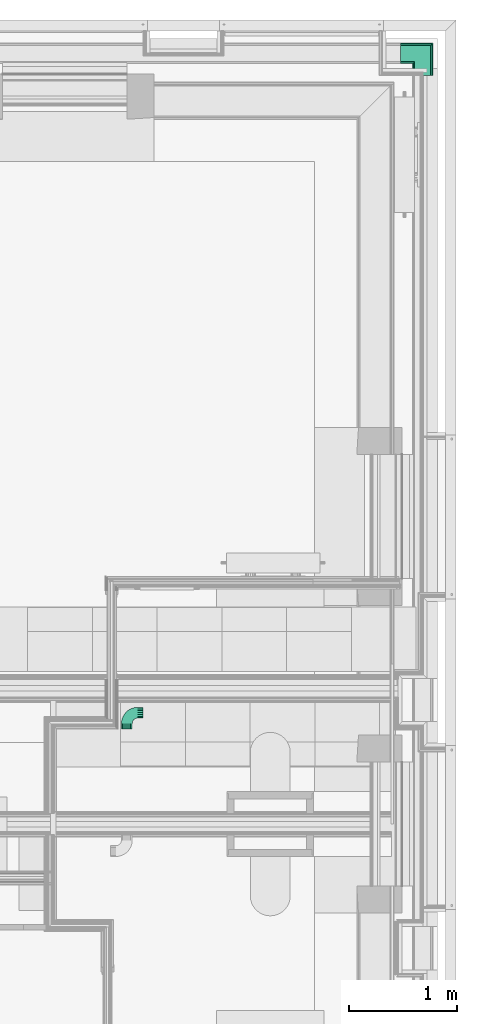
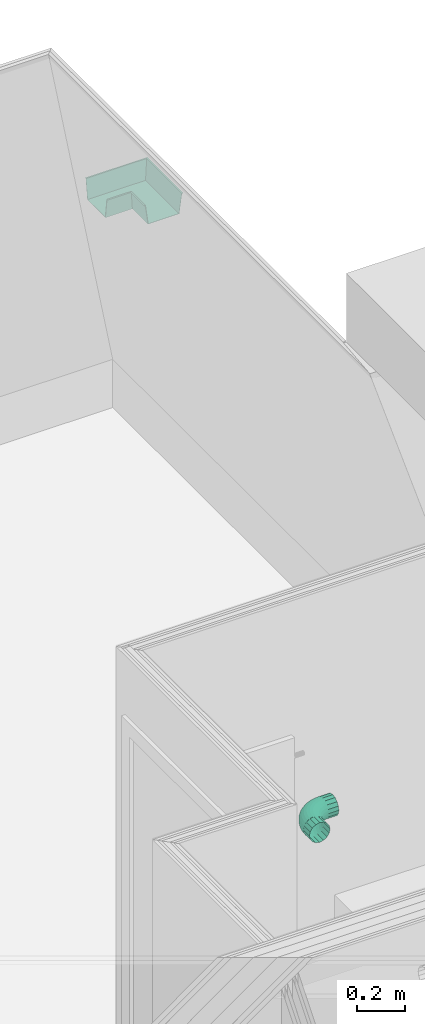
# One storey, part 165 of 169: 2 flow fittings.
"""IFC2X3 building model written with IfcOpenShell, lengths in metres."""

from ifc_helpers import new_model, entity, si_unit, converted_unit, derived_unit, money_unit, direction, frame, origin_with_axes, place, context, subcontext, project, spatial, open_shell, faceted_brep, surface_model, material, type_object, element, save


model = new_model("IFC2X3")

# Units and contexts
model_context = context("Model", 3, precision=1e-05, world=origin_with_axes(), true_north=direction((0.0, 1.0)))
body_context = subcontext(model_context, "Body", "Model", "MODEL_VIEW", scale=1.0)
ifc_project = project(units=[si_unit("LENGTHUNIT", "METRE"), si_unit("AREAUNIT", "SQUARE_METRE"), si_unit("VOLUMEUNIT", "CUBIC_METRE"), si_unit("ABSORBEDDOSEUNIT", "GRAY"), si_unit("AMOUNTOFSUBSTANCEUNIT", "MOLE"), si_unit("DOSEEQUIVALENTUNIT", "SIEVERT"), si_unit("ELECTRICCAPACITANCEUNIT", "FARAD"), si_unit("ELECTRICCHARGEUNIT", "COULOMB"), si_unit("ELECTRICCONDUCTANCEUNIT", "SIEMENS"), si_unit("ELECTRICCURRENTUNIT", "AMPERE"), si_unit("ELECTRICRESISTANCEUNIT", "OHM"), si_unit("ELECTRICVOLTAGEUNIT", "VOLT"), si_unit("ENERGYUNIT", "JOULE"), si_unit("FORCEUNIT", "NEWTON"), si_unit("FREQUENCYUNIT", "HERTZ"), si_unit("ILLUMINANCEUNIT", "LUX"), si_unit("INDUCTANCEUNIT", "HENRY"), si_unit("LUMINOUSFLUXUNIT", "LUMEN"), si_unit("LUMINOUSINTENSITYUNIT", "CANDELA"), si_unit("MAGNETICFLUXDENSITYUNIT", "TESLA"), si_unit("MAGNETICFLUXUNIT", "WEBER"), si_unit("MASSUNIT", "GRAM"), converted_unit("PLANEANGLEUNIT", "degree", entity("IfcReal", 0.0174532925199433), si_unit("PLANEANGLEUNIT", "RADIAN"), dimensions=[0, 0, 0, 0, 0, 0, 0]), si_unit("POWERUNIT", "WATT"), si_unit("PRESSUREUNIT", "PASCAL"), si_unit("RADIOACTIVITYUNIT", "BECQUEREL"), si_unit("SOLIDANGLEUNIT", "STERADIAN"), si_unit("THERMODYNAMICTEMPERATUREUNIT", "KELVIN"), si_unit("TIMEUNIT", "SECOND"), derived_unit("ACCELERATIONUNIT", [(si_unit("LENGTHUNIT", "METRE"), 1), (si_unit("TIMEUNIT", "SECOND"), -2)]), derived_unit("ANGULARVELOCITYUNIT", [(converted_unit("PLANEANGLEUNIT", "degree", entity("IfcReal", 0.0174532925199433), si_unit("PLANEANGLEUNIT", "RADIAN"), dimensions=[0, 0, 0, 0, 0, 0, 0]), 1), (si_unit("TIMEUNIT", "SECOND"), -1)]), derived_unit("CURVATUREUNIT", [(converted_unit("PLANEANGLEUNIT", "degree", entity("IfcReal", 0.0174532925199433), si_unit("PLANEANGLEUNIT", "RADIAN"), dimensions=[0, 0, 0, 0, 0, 0, 0]), 1), (si_unit("LENGTHUNIT", "METRE"), -1)]), derived_unit("DYNAMICVISCOSITYUNIT", [(si_unit("PRESSUREUNIT", "PASCAL"), 1), (si_unit("TIMEUNIT", "SECOND"), 1)]), derived_unit("HEATFLUXDENSITYUNIT", [(si_unit("POWERUNIT", "WATT"), 1), (si_unit("LENGTHUNIT", "METRE"), -2)]), derived_unit("HEATINGVALUEUNIT", [(si_unit("ENERGYUNIT", "JOULE"), 1), (si_unit("MASSUNIT", "GRAM"), -1)]), derived_unit("INTEGERCOUNTRATEUNIT", [(si_unit("TIMEUNIT", "SECOND"), -1)]), derived_unit("IONCONCENTRATIONUNIT", [(si_unit("MASSUNIT", "GRAM"), 1), (si_unit("VOLUMEUNIT", "CUBIC_METRE"), -1)]), derived_unit("ISOTHERMALMOISTURECAPACITYUNIT", [(si_unit("VOLUMEUNIT", "CUBIC_METRE"), 1), (si_unit("MASSUNIT", "GRAM"), -1)]), derived_unit("KINEMATICVISCOSITYUNIT", [(si_unit("AREAUNIT", "SQUARE_METRE"), 1), (si_unit("TIMEUNIT", "SECOND"), -1)]), derived_unit("LINEARFORCEUNIT", [(si_unit("FORCEUNIT", "NEWTON"), 1), (si_unit("LENGTHUNIT", "METRE"), -1)]), derived_unit("LINEARMOMENTUNIT", [(si_unit("FORCEUNIT", "NEWTON"), 1), (si_unit("LENGTHUNIT", "METRE"), -1)]), derived_unit("LINEARSTIFFNESSUNIT", [(si_unit("FORCEUNIT", "NEWTON"), 1), (si_unit("LENGTHUNIT", "METRE"), -1)]), derived_unit("LINEARVELOCITYUNIT", [(si_unit("LENGTHUNIT", "METRE"), 1), (si_unit("TIMEUNIT", "SECOND"), -1)]), derived_unit("LUMINOUSINTENSITYDISTRIBUTIONUNIT", [(si_unit("LUMINOUSINTENSITYUNIT", "CANDELA"), 1), (si_unit("LUMINOUSFLUXUNIT", "LUMEN"), -1)]), derived_unit("MASSDENSITYUNIT", [(si_unit("MASSUNIT", "GRAM"), 1), (si_unit("VOLUMEUNIT", "CUBIC_METRE"), -1)]), derived_unit("MASSFLOWRATEUNIT", [(si_unit("MASSUNIT", "GRAM"), 1), (si_unit("TIMEUNIT", "SECOND"), -1)]), derived_unit("MASSPERLENGTHUNIT", [(si_unit("MASSUNIT", "GRAM"), 1), (si_unit("LENGTHUNIT", "METRE"), -1)]), derived_unit("MODULUSOFELASTICITYUNIT", [(si_unit("FORCEUNIT", "NEWTON"), 1), (si_unit("AREAUNIT", "SQUARE_METRE"), -1)]), derived_unit("MODULUSOFLINEARSUBGRADEREACTIONUNIT", [(si_unit("FORCEUNIT", "NEWTON"), 1), (si_unit("LENGTHUNIT", "METRE"), -2)]), derived_unit("MODULUSOFROTATIONALSUBGRADEREACTIONUNIT", [(si_unit("FORCEUNIT", "NEWTON"), 1), (si_unit("LENGTHUNIT", "METRE"), 1)]), derived_unit("MODULUSOFSUBGRADEREACTIONUNIT", [(si_unit("FORCEUNIT", "NEWTON"), 1), (si_unit("VOLUMEUNIT", "CUBIC_METRE"), -1)]), derived_unit("MOISTUREDIFFUSIVITYUNIT", [(si_unit("VOLUMEUNIT", "CUBIC_METRE"), 1), (si_unit("TIMEUNIT", "SECOND"), -1)]), derived_unit("MOLECULARWEIGHTUNIT", [(si_unit("MASSUNIT", "GRAM"), 1), (si_unit("AMOUNTOFSUBSTANCEUNIT", "MOLE"), -1)]), derived_unit("PLANARFORCEUNIT", [(si_unit("FORCEUNIT", "NEWTON"), 1), (si_unit("LENGTHUNIT", "METRE"), -2)]), derived_unit("ROTATIONALFREQUENCYUNIT", [(si_unit("TIMEUNIT", "SECOND"), -1)]), derived_unit("ROTATIONALMASSUNIT", [(si_unit("MASSUNIT", "GRAM"), 1), (si_unit("LENGTHUNIT", "METRE"), 2)]), derived_unit("ROTATIONALSTIFFNESSUNIT", [(si_unit("FORCEUNIT", "NEWTON"), 1), (si_unit("LENGTHUNIT", "METRE"), 1), (converted_unit("PLANEANGLEUNIT", "degree", entity("IfcReal", 0.0174532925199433), si_unit("PLANEANGLEUNIT", "RADIAN"), dimensions=[0, 0, 0, 0, 0, 0, 0]), -1)]), derived_unit("SECTIONAREAINTEGRALUNIT", [(si_unit("LENGTHUNIT", "METRE"), 5)]), derived_unit("SECTIONMODULUSUNIT", [(si_unit("LENGTHUNIT", "METRE"), 3)]), derived_unit("SHEARMODULUSUNIT", [(si_unit("FORCEUNIT", "NEWTON"), 1), (si_unit("AREAUNIT", "SQUARE_METRE"), -1)]), derived_unit("SOUNDPOWERUNIT", [(si_unit("ENERGYUNIT", "JOULE"), 1), (si_unit("TIMEUNIT", "SECOND"), -1)]), derived_unit("SPECIFICHEATCAPACITYUNIT", [(si_unit("FORCEUNIT", "NEWTON"), 1), (si_unit("MASSUNIT", "GRAM"), -1), (si_unit("THERMODYNAMICTEMPERATUREUNIT", "KELVIN"), -1)]), derived_unit("TEMPERATUREGRADIENTUNIT", [(si_unit("THERMODYNAMICTEMPERATUREUNIT", "KELVIN"), 1), (si_unit("LENGTHUNIT", "METRE"), -1)]), derived_unit("THERMALADMITTANCEUNIT", [(si_unit("POWERUNIT", "WATT"), 1), (si_unit("AREAUNIT", "SQUARE_METRE"), -1), (si_unit("THERMODYNAMICTEMPERATUREUNIT", "KELVIN"), -1)]), derived_unit("THERMALCONDUCTANCEUNIT", [(si_unit("POWERUNIT", "WATT"), 1), (si_unit("LENGTHUNIT", "METRE"), -1), (si_unit("THERMODYNAMICTEMPERATUREUNIT", "KELVIN"), -1)]), derived_unit("THERMALEXPANSIONCOEFFICIENTUNIT", [(si_unit("THERMODYNAMICTEMPERATUREUNIT", "KELVIN"), -1)]), derived_unit("THERMALRESISTANCEUNIT", [(si_unit("AREAUNIT", "SQUARE_METRE"), 1), (si_unit("POWERUNIT", "WATT"), -1)]), derived_unit("THERMALTRANSMITTANCEUNIT", [(si_unit("POWERUNIT", "WATT"), 1), (si_unit("AREAUNIT", "SQUARE_METRE"), -1), (si_unit("THERMODYNAMICTEMPERATUREUNIT", "KELVIN"), -1)]), derived_unit("TORQUEUNIT", [(si_unit("FORCEUNIT", "NEWTON"), 1), (si_unit("LENGTHUNIT", "METRE"), 1)]), derived_unit("VAPORPERMEABILITYUNIT", [(si_unit("MASSUNIT", "GRAM"), 1), (si_unit("TIMEUNIT", "SECOND"), -1)]), derived_unit("VOLUMETRICFLOWRATEUNIT", [(si_unit("VOLUMEUNIT", "CUBIC_METRE"), 1), (si_unit("TIMEUNIT", "SECOND"), -1)]), derived_unit("WARPINGCONSTANTUNIT", [(si_unit("LENGTHUNIT", "METRE"), 6)]), derived_unit("WARPINGMOMENTUNIT", [(si_unit("FORCEUNIT", "NEWTON"), 1), (si_unit("LENGTHUNIT", "METRE"), 2)]), money_unit("GBP")], contexts=[model_context])

# Site, building, storey, space
site_placement = place(None, origin_with_axes())
site = spatial("IfcSite", under=ifc_project, at=site_placement, Name="Site", CompositionType="ELEMENT")
building_placement = place(site_placement, origin_with_axes())
building = spatial("IfcBuilding", under=site, at=building_placement, Name="Building01", CompositionType="ELEMENT")
storey_placement = place(building_placement, frame((0.0, 0.0, 5.15), z_axis=(0.0, 0.0, 1.0), x_axis=(1.0, 0.0, 0.0)))
storey = spatial("IfcBuildingStorey", under=building, at=storey_placement, Name="1F", CompositionType="ELEMENT", Elevation=5.15)
space_placement = place(storey_placement, frame((23.258821, 8.349915, 9.86), z_axis=(0.0, 0.0, 1.0), x_axis=(0.0, -1.0, 0.0)))
space = spatial("IfcSpace", under=storey, at=space_placement, Name="ensuite", CompositionType="ELEMENT", InteriorOrExteriorSpace="NOTDEFINED")

# Flow fittings
ifc_material_1 = material(Name="M_BSUK_Ventilation")
duct_fitting_type = type_object("IfcDuctFittingType", Name="M-Roundelbow-DefaultRound", PredefinedType="BEND")
placement = place(building_placement, origin_with_axes())
flow_fitting_1_placement = place(placement, frame((24.03, 8.482559, 17.28), z_axis=(0.0, 1.0, 0.0), x_axis=(-1.0, 0.0, 0.0)))
element("IfcFlowFitting", 1, at=flow_fitting_1_placement, inside=space, type_object=duct_fitting_type, material=ifc_material_1, Name="M-Roundelbow-DefaultRound", ObjectType="M-Roundelbow-DefaultRound", context=body_context, shape_type="SurfaceModel", body=[
    surface_model("IfcShellBasedSurfaceModel", [(0.008112, -0.01349, -0.048784), (0.0, -0.01349, -0.048146), (0.0, 0.0, -0.05), (0.007822, 0.0, -0.050616), (0.016024, -0.01349, -0.050684), (0.015451, 0.0, -0.052447), (0.023541, -0.01349, -0.053798), (0.0227, 0.0, -0.05545), (0.030479, -0.01349, -0.058049), (0.029389, 0.0, -0.059549), (0.036666, -0.01349, -0.063334), (0.035355, 0.0, -0.064645), (0.041951, -0.01349, -0.069521), (0.040451, 0.0, -0.070611), (0.046202, -0.01349, -0.076459), (0.04455, 0.0, -0.0773), (0.049316, -0.01349, -0.083976), (0.047553, 0.0, -0.084549), (0.051216, -0.01349, -0.091888), (0.049384, 0.0, -0.092178), (0.051854, -0.01349, -0.1), (0.05, 0.0, -0.1), (0.00896, -0.025979, -0.043426), (0.0, -0.025979, -0.042721), (0.0177, -0.025979, -0.045524), (0.026004, -0.025979, -0.048964), (0.033668, -0.025979, -0.05366), (0.040502, -0.025979, -0.059498), (0.04634, -0.025979, -0.066332), (0.051036, -0.025979, -0.073996), (0.054476, -0.025979, -0.0823), (0.056574, -0.025979, -0.09104), (0.057279, -0.025979, -0.1), (0.010305, -0.036542, -0.034939), (0.0, -0.036542, -0.034128), (0.020356, -0.036542, -0.037352), (0.029905, -0.036542, -0.041307), (0.038719, -0.036542, -0.046708), (0.046579, -0.036542, -0.053421), (0.053292, -0.036542, -0.061281), (0.058693, -0.036542, -0.070095), (0.062648, -0.036542, -0.079644), (0.065061, -0.036542, -0.089695), (0.065872, -0.036542, -0.1), (0.012045, -0.044394, -0.023951), (0.0, -0.044394, -0.023003), (0.023793, -0.044394, -0.026772), (0.034956, -0.044394, -0.031395), (0.045258, -0.044394, -0.037708), (0.054445, -0.044394, -0.045555), (0.062292, -0.044394, -0.054742), (0.068605, -0.044394, -0.065044), (0.073228, -0.044394, -0.076207), (0.076049, -0.044394, -0.087955), (0.076997, -0.044394, -0.1), (0.014052, -0.048954, -0.011279), (0.0, -0.048954, -0.010173), (0.027758, -0.048954, -0.014569), (0.040781, -0.048954, -0.019963), (0.052799, -0.048954, -0.027328), (0.063517, -0.048954, -0.036483), (0.072672, -0.048954, -0.047201), (0.080037, -0.048954, -0.059219), (0.085431, -0.048954, -0.072242), (0.088721, -0.048954, -0.085948), (0.089827, -0.048954, -0.1), (0.016177, -0.049883, 0.002139), (0.0, -0.049883, 0.003412), (0.031956, -0.049883, -0.001649), (0.046948, -0.049883, -0.007859), (0.060784, -0.049883, -0.016338), (0.073123, -0.049883, -0.026877), (0.083662, -0.049883, -0.039216), (0.092141, -0.049883, -0.053052), (0.098351, -0.049883, -0.068044), (0.102139, -0.049883, -0.083823), (0.103412, -0.049883, -0.1), (0.018263, -0.047113, 0.015307), (0.0, -0.047113, 0.016744), (0.036076, -0.047113, 0.01103), (0.053001, -0.047113, 0.00402), (0.06862, -0.047113, -0.005552), (0.08255, -0.047113, -0.01745), (0.094448, -0.047113, -0.03138), (0.10402, -0.047113, -0.046999), (0.11103, -0.047113, -0.063924), (0.115307, -0.047113, -0.081737), (0.116744, -0.047113, -0.1), (0.020154, -0.040848, 0.027248), (0.0, -0.040848, 0.028834), (0.039812, -0.040848, 0.022528), (0.058489, -0.040848, 0.014792), (0.075727, -0.040848, 0.004229), (0.091099, -0.040848, -0.008901), (0.104229, -0.040848, -0.024273), (0.114792, -0.040848, -0.041511), (0.122528, -0.040848, -0.060188), (0.127248, -0.040848, -0.079846), (0.128834, -0.040848, -0.1), (0.021711, -0.031554, 0.037077), (0.0, -0.031554, 0.038786), (0.042887, -0.031554, 0.031993), (0.063007, -0.031554, 0.023659), (0.081576, -0.031554, 0.01228), (0.098136, -0.031554, -0.001864), (0.11228, -0.031554, -0.018424), (0.123659, -0.031554, -0.036993), (0.131993, -0.031554, -0.057113), (0.137077, -0.031554, -0.078289), (0.138786, -0.031554, -0.1), (0.022818, -0.01992, 0.044065), (0.0, -0.01992, 0.045861), (0.045073, -0.01992, 0.038722), (0.066219, -0.01992, 0.029963), (0.085735, -0.01992, 0.018004), (0.103139, -0.01992, 0.003139), (0.118004, -0.01992, -0.014265), (0.129963, -0.01992, -0.033781), (0.138722, -0.01992, -0.054927), (0.144065, -0.01992, -0.077182), (0.145861, -0.01992, -0.1), (0.023392, -0.006808, 0.047693), (0.0, -0.006808, 0.049534), (0.046209, -0.006808, 0.042216), (0.067887, -0.006808, 0.033236), (0.087894, -0.006808, 0.020976), (0.105737, -0.006808, 0.005737), (0.120976, -0.006808, -0.012106), (0.133236, -0.006808, -0.032113), (0.142216, -0.006808, -0.053791), (0.147693, -0.006808, -0.076608), (0.149534, -0.006808, -0.1), (0.023392, 0.006808, 0.047693), (0.0, 0.006808, 0.049534), (0.046209, 0.006808, 0.042216), (0.067887, 0.006808, 0.033236), (0.087894, 0.006808, 0.020976), (0.105737, 0.006808, 0.005737), (0.120976, 0.006808, -0.012106), (0.133236, 0.006808, -0.032113), (0.142216, 0.006808, -0.053791), (0.147693, 0.006808, -0.076608), (0.149534, 0.006808, -0.1), (0.022818, 0.01992, 0.044065), (0.0, 0.01992, 0.045861), (0.045073, 0.01992, 0.038722), (0.066219, 0.01992, 0.029963), (0.085735, 0.01992, 0.018004), (0.103139, 0.01992, 0.003139), (0.118004, 0.01992, -0.014265), (0.129963, 0.01992, -0.033781), (0.138722, 0.01992, -0.054927), (0.144065, 0.01992, -0.077182), (0.145861, 0.01992, -0.1), (0.021711, 0.031554, 0.037077), (0.0, 0.031554, 0.038786), (0.042887, 0.031554, 0.031993), (0.063007, 0.031554, 0.023659), (0.081576, 0.031554, 0.01228), (0.098136, 0.031554, -0.001864), (0.11228, 0.031554, -0.018424), (0.123659, 0.031554, -0.036993), (0.131993, 0.031554, -0.057113), (0.137077, 0.031554, -0.078289), (0.138786, 0.031554, -0.1), (0.020154, 0.040848, 0.027248), (0.0, 0.040848, 0.028834), (0.039812, 0.040848, 0.022528), (0.058489, 0.040848, 0.014792), (0.075727, 0.040848, 0.004229), (0.091099, 0.040848, -0.008901), (0.104229, 0.040848, -0.024273), (0.114792, 0.040848, -0.041511), (0.122528, 0.040848, -0.060188), (0.127248, 0.040848, -0.079846), (0.128834, 0.040848, -0.1), (0.018263, 0.047113, 0.015307), (0.0, 0.047113, 0.016744), (0.036076, 0.047113, 0.01103), (0.053001, 0.047113, 0.00402), (0.06862, 0.047113, -0.005552), (0.08255, 0.047113, -0.01745), (0.094448, 0.047113, -0.03138), (0.10402, 0.047113, -0.046999), (0.11103, 0.047113, -0.063924), (0.115307, 0.047113, -0.081737), (0.116744, 0.047113, -0.1), (0.016177, 0.049883, 0.002139), (0.0, 0.049883, 0.003412), (0.031956, 0.049883, -0.001649), (0.046948, 0.049883, -0.007859), (0.060784, 0.049883, -0.016338), (0.073123, 0.049883, -0.026877), (0.083662, 0.049883, -0.039216), (0.092141, 0.049883, -0.053052), (0.098351, 0.049883, -0.068044), (0.102139, 0.049883, -0.083823), (0.103412, 0.049883, -0.1), (0.014052, 0.048954, -0.011279), (0.0, 0.048954, -0.010173), (0.027758, 0.048954, -0.014569), (0.040781, 0.048954, -0.019963), (0.052799, 0.048954, -0.027328), (0.063517, 0.048954, -0.036483), (0.072672, 0.048954, -0.047201), (0.080037, 0.048954, -0.059219), (0.085431, 0.048954, -0.072242), (0.088721, 0.048954, -0.085948), (0.089827, 0.048954, -0.1), (0.012045, 0.044394, -0.023951), (0.0, 0.044394, -0.023003), (0.023793, 0.044394, -0.026772), (0.034956, 0.044394, -0.031395), (0.045258, 0.044394, -0.037708), (0.054445, 0.044394, -0.045555), (0.062292, 0.044394, -0.054742), (0.068605, 0.044394, -0.065044), (0.073228, 0.044394, -0.076207), (0.076049, 0.044394, -0.087955), (0.076997, 0.044394, -0.1), (0.010305, 0.036542, -0.034939), (0.0, 0.036542, -0.034128), (0.020356, 0.036542, -0.037352), (0.029905, 0.036542, -0.041307), (0.038719, 0.036542, -0.046708), (0.046579, 0.036542, -0.053421), (0.053292, 0.036542, -0.061281), (0.058693, 0.036542, -0.070095), (0.062648, 0.036542, -0.079644), (0.065061, 0.036542, -0.089695), (0.065872, 0.036542, -0.1), (0.00896, 0.025979, -0.043426), (0.0, 0.025979, -0.042721), (0.0177, 0.025979, -0.045524), (0.026004, 0.025979, -0.048964), (0.033668, 0.025979, -0.05366), (0.040502, 0.025979, -0.059498), (0.04634, 0.025979, -0.066332), (0.051036, 0.025979, -0.073996), (0.054476, 0.025979, -0.0823), (0.056574, 0.025979, -0.09104), (0.057279, 0.025979, -0.1), (0.008112, 0.01349, -0.048784), (0.0, 0.01349, -0.048146), (0.016024, 0.01349, -0.050684), (0.023541, 0.01349, -0.053798), (0.030479, 0.01349, -0.058049), (0.036666, 0.01349, -0.063334), (0.041951, 0.01349, -0.069521), (0.046202, 0.01349, -0.076459), (0.049316, 0.01349, -0.083976), (0.051216, 0.01349, -0.091888), (0.051854, 0.01349, -0.1), (-0.05, 0.0, -0.05), (0.0, -0.019134, -0.046194), (-0.05, -0.019134, -0.046194), (0.0, -0.035355, -0.035355), (-0.05, -0.035355, -0.035355), (0.0, -0.046194, -0.019134), (-0.05, -0.046194, -0.019134), (0.0, -0.05, 0.0), (-0.05, -0.05, 0.0), (0.0, -0.046194, 0.019134), (-0.05, -0.046194, 0.019134), (0.0, -0.035355, 0.035355), (-0.05, -0.035355, 0.035355), (0.0, -0.019134, 0.046194), (-0.05, -0.019134, 0.046194), (0.0, 0.0, 0.05), (-0.05, 0.0, 0.05), (0.0, 0.019134, 0.046194), (-0.05, 0.019134, 0.046194), (0.0, 0.035355, 0.035355), (-0.05, 0.035355, 0.035355), (0.0, 0.046194, 0.019134), (-0.05, 0.046194, 0.019134), (0.0, 0.05, 0.0), (-0.05, 0.05, 0.0), (0.0, 0.046194, -0.019134), (-0.05, 0.046194, -0.019134), (0.0, 0.035355, -0.035355), (-0.05, 0.035355, -0.035355), (0.0, 0.019134, -0.046194), (-0.05, 0.019134, -0.046194), (0.05, 0.0, -0.15), (0.053806, 0.019134, -0.1), (0.053806, 0.019134, -0.15), (0.064645, 0.035355, -0.1), (0.064645, 0.035355, -0.15), (0.080866, 0.046194, -0.1), (0.080866, 0.046194, -0.15), (0.1, 0.05, -0.1), (0.1, 0.05, -0.15), (0.119134, 0.046194, -0.1), (0.119134, 0.046194, -0.15), (0.135355, 0.035355, -0.1), (0.135355, 0.035355, -0.15), (0.146194, 0.019134, -0.1), (0.146194, 0.019134, -0.15), (0.15, 0.0, -0.1), (0.15, 0.0, -0.15), (0.146194, -0.019134, -0.1), (0.146194, -0.019134, -0.15), (0.135355, -0.035355, -0.1), (0.135355, -0.035355, -0.15), (0.119134, -0.046194, -0.1), (0.119134, -0.046194, -0.15), (0.1, -0.05, -0.1), (0.1, -0.05, -0.15), (0.080866, -0.046194, -0.1), (0.080866, -0.046194, -0.15), (0.064645, -0.035355, -0.1), (0.064645, -0.035355, -0.15), (0.053806, -0.019134, -0.1), (0.053806, -0.019134, -0.15)], [open_shell([[[0, 1, 2, 3]], [[4, 0, 3, 5]], [[6, 4, 5, 7]], [[8, 6, 7, 9]], [[10, 8, 9, 11]], [[12, 10, 11, 13]], [[14, 12, 13, 15]], [[16, 14, 15, 17]], [[18, 16, 17, 19]], [[20, 18, 19, 21]], [[22, 23, 1, 0]], [[24, 22, 0, 4]], [[25, 24, 4, 6]], [[26, 25, 6, 8]], [[27, 26, 8, 10]], [[28, 27, 10, 12]], [[29, 28, 12, 14]], [[30, 29, 14, 16]], [[31, 30, 16, 18]], [[32, 31, 18, 20]], [[33, 34, 23, 22]], [[35, 33, 22, 24]], [[36, 35, 24, 25]], [[37, 36, 25, 26]], [[38, 37, 26, 27]], [[39, 38, 27, 28]], [[40, 39, 28, 29]], [[41, 40, 29, 30]], [[42, 41, 30, 31]], [[43, 42, 31, 32]], [[44, 45, 34, 33]], [[46, 44, 33, 35]], [[47, 46, 35, 36]], [[48, 47, 36, 37]], [[49, 48, 37, 38]], [[50, 49, 38, 39]], [[51, 50, 39, 40]], [[52, 51, 40, 41]], [[53, 52, 41, 42]], [[54, 53, 42, 43]], [[55, 56, 45, 44]], [[57, 55, 44, 46]], [[58, 57, 46, 47]], [[59, 58, 47, 48]], [[60, 59, 48, 49]], [[61, 60, 49, 50]], [[62, 61, 50, 51]], [[63, 62, 51, 52]], [[64, 63, 52, 53]], [[65, 64, 53, 54]], [[66, 67, 56, 55]], [[68, 66, 55, 57]], [[69, 68, 57, 58]], [[70, 69, 58, 59]], [[71, 70, 59, 60]], [[72, 71, 60, 61]], [[73, 72, 61, 62]], [[74, 73, 62, 63]], [[75, 74, 63, 64]], [[76, 75, 64, 65]], [[77, 78, 67, 66]], [[79, 77, 66, 68]], [[80, 79, 68, 69]], [[81, 80, 69, 70]], [[82, 81, 70, 71]], [[83, 82, 71, 72]], [[84, 83, 72, 73]], [[85, 84, 73, 74]], [[86, 85, 74, 75]], [[87, 86, 75, 76]], [[88, 89, 78, 77]], [[90, 88, 77, 79]], [[91, 90, 79, 80]], [[92, 91, 80, 81]], [[93, 92, 81, 82]], [[94, 93, 82, 83]], [[95, 94, 83, 84]], [[96, 95, 84, 85]], [[97, 96, 85, 86]], [[98, 97, 86, 87]], [[99, 100, 89, 88]], [[101, 99, 88, 90]], [[102, 101, 90, 91]], [[103, 102, 91, 92]], [[104, 103, 92, 93]], [[105, 104, 93, 94]], [[106, 105, 94, 95]], [[107, 106, 95, 96]], [[108, 107, 96, 97]], [[109, 108, 97, 98]], [[110, 111, 100, 99]], [[112, 110, 99, 101]], [[113, 112, 101, 102]], [[114, 113, 102, 103]], [[115, 114, 103, 104]], [[116, 115, 104, 105]], [[117, 116, 105, 106]], [[118, 117, 106, 107]], [[119, 118, 107, 108]], [[120, 119, 108, 109]], [[121, 122, 111, 110]], [[123, 121, 110, 112]], [[124, 123, 112, 113]], [[125, 124, 113, 114]], [[126, 125, 114, 115]], [[127, 126, 115, 116]], [[128, 127, 116, 117]], [[129, 128, 117, 118]], [[130, 129, 118, 119]], [[131, 130, 119, 120]], [[132, 133, 122, 121]], [[134, 132, 121, 123]], [[135, 134, 123, 124]], [[136, 135, 124, 125]], [[137, 136, 125, 126]], [[138, 137, 126, 127]], [[139, 138, 127, 128]], [[140, 139, 128, 129]], [[141, 140, 129, 130]], [[142, 141, 130, 131]], [[143, 144, 133, 132]], [[145, 143, 132, 134]], [[146, 145, 134, 135]], [[147, 146, 135, 136]], [[148, 147, 136, 137]], [[149, 148, 137, 138]], [[150, 149, 138, 139]], [[151, 150, 139, 140]], [[152, 151, 140, 141]], [[153, 152, 141, 142]], [[154, 155, 144, 143]], [[156, 154, 143, 145]], [[157, 156, 145, 146]], [[158, 157, 146, 147]], [[159, 158, 147, 148]], [[160, 159, 148, 149]], [[161, 160, 149, 150]], [[162, 161, 150, 151]], [[163, 162, 151, 152]], [[164, 163, 152, 153]], [[165, 166, 155, 154]], [[167, 165, 154, 156]], [[168, 167, 156, 157]], [[169, 168, 157, 158]], [[170, 169, 158, 159]], [[171, 170, 159, 160]], [[172, 171, 160, 161]], [[173, 172, 161, 162]], [[174, 173, 162, 163]], [[175, 174, 163, 164]], [[176, 177, 166, 165]], [[178, 176, 165, 167]], [[179, 178, 167, 168]], [[180, 179, 168, 169]], [[181, 180, 169, 170]], [[182, 181, 170, 171]], [[183, 182, 171, 172]], [[184, 183, 172, 173]], [[185, 184, 173, 174]], [[186, 185, 174, 175]], [[187, 188, 177, 176]], [[189, 187, 176, 178]], [[190, 189, 178, 179]], [[191, 190, 179, 180]], [[192, 191, 180, 181]], [[193, 192, 181, 182]], [[194, 193, 182, 183]], [[195, 194, 183, 184]], [[196, 195, 184, 185]], [[197, 196, 185, 186]], [[198, 199, 188, 187]], [[200, 198, 187, 189]], [[201, 200, 189, 190]], [[202, 201, 190, 191]], [[203, 202, 191, 192]], [[204, 203, 192, 193]], [[205, 204, 193, 194]], [[206, 205, 194, 195]], [[207, 206, 195, 196]], [[208, 207, 196, 197]], [[209, 210, 199, 198]], [[211, 209, 198, 200]], [[212, 211, 200, 201]], [[213, 212, 201, 202]], [[214, 213, 202, 203]], [[215, 214, 203, 204]], [[216, 215, 204, 205]], [[217, 216, 205, 206]], [[218, 217, 206, 207]], [[219, 218, 207, 208]], [[220, 221, 210, 209]], [[222, 220, 209, 211]], [[223, 222, 211, 212]], [[224, 223, 212, 213]], [[225, 224, 213, 214]], [[226, 225, 214, 215]], [[227, 226, 215, 216]], [[228, 227, 216, 217]], [[229, 228, 217, 218]], [[230, 229, 218, 219]], [[231, 232, 221, 220]], [[233, 231, 220, 222]], [[234, 233, 222, 223]], [[235, 234, 223, 224]], [[236, 235, 224, 225]], [[237, 236, 225, 226]], [[238, 237, 226, 227]], [[239, 238, 227, 228]], [[240, 239, 228, 229]], [[241, 240, 229, 230]], [[242, 243, 232, 231]], [[244, 242, 231, 233]], [[245, 244, 233, 234]], [[246, 245, 234, 235]], [[247, 246, 235, 236]], [[248, 247, 236, 237]], [[249, 248, 237, 238]], [[250, 249, 238, 239]], [[251, 250, 239, 240]], [[252, 251, 240, 241]], [[3, 2, 243, 242]], [[5, 3, 242, 244]], [[7, 5, 244, 245]], [[9, 7, 245, 246]], [[11, 9, 246, 247]], [[13, 11, 247, 248]], [[15, 13, 248, 249]], [[17, 15, 249, 250]], [[19, 17, 250, 251]], [[21, 19, 251, 252]], [[253, 2, 254, 255]], [[255, 254, 256, 257]], [[257, 256, 258, 259]], [[259, 258, 260, 261]], [[261, 260, 262, 263]], [[263, 262, 264, 265]], [[265, 264, 266, 267]], [[267, 266, 268, 269]], [[269, 268, 270, 271]], [[271, 270, 272, 273]], [[273, 272, 274, 275]], [[275, 274, 276, 277]], [[277, 276, 278, 279]], [[279, 278, 280, 281]], [[281, 280, 282, 283]], [[283, 282, 2, 253]], [[284, 21, 285, 286]], [[286, 285, 287, 288]], [[288, 287, 289, 290]], [[290, 289, 291, 292]], [[292, 291, 293, 294]], [[294, 293, 295, 296]], [[296, 295, 297, 298]], [[298, 297, 299, 300]], [[300, 299, 301, 302]], [[302, 301, 303, 304]], [[304, 303, 305, 306]], [[306, 305, 307, 308]], [[308, 307, 309, 310]], [[310, 309, 311, 312]], [[312, 311, 313, 314]], [[314, 313, 21, 284]]])]),
])
ifc_material_2 = material(Name="A_BSUK_RainwaterDrainageSystems")
pipe_fitting_type = type_object("IfcPipeFittingType", Name="A-RainwaterDrainageSystems-GutterCorner", PredefinedType="NOTDEFINED")
flow_fitting_2_placement = place(storey_placement, frame((26.465654, 14.385653, 10.629268), z_axis=(0.0, 0.0, 1.0), x_axis=(1.0, 0.0, 0.0)))
element("IfcFlowFitting", 2, at=flow_fitting_2_placement, inside=storey, type_object=pipe_fitting_type, material=ifc_material_2, Name="A-RainwaterDrainageSystems-GutterCorner", ObjectType="A-RainwaterDrainageSystems-GutterCorner", context=body_context, shape_type="Brep", body=[
    faceted_brep([(0.111195, 1e-06, 0.099145), (0.116849, 1e-06, 0.099145), (0.129902, 1e-06, 0.0), (0.281294, 1e-06, 0.0), (0.294346, 1e-06, 0.099145), (0.3, 1e-06, 0.099145), (0.3, 1e-06, 0.100732), (0.292954, 1e-06, 0.100732), (0.279902, 1e-06, 0.001588), (0.131294, 1e-06, 0.001588), (0.118241, 1e-06, 0.100732), (0.111195, 1e-06, 0.100732), (0.0, 0.111195, 0.100732), (0.0, 0.118241, 0.100732), (0.0, 0.131294, 0.001588), (0.0, 0.279902, 0.001588), (0.0, 0.292954, 0.100732), (0.0, 0.300001, 0.100732), (0.0, 0.300001, 0.099145), (0.0, 0.294347, 0.099145), (0.0, 0.281294, 0.0), (0.0, 0.129902, 0.0), (0.0, 0.116849, 0.099145), (0.0, 0.111195, 0.099145), (0.111195, 0.111195, 0.100732), (0.111195, 0.111195, 0.099145), (0.118241, 0.118241, 0.100732), (0.131294, 0.131294, 0.001588), (0.279902, 0.279902, 0.001588), (0.292954, 0.292954, 0.100732), (0.3, 0.300001, 0.100732), (0.3, 0.300001, 0.099145), (0.294346, 0.294347, 0.099145), (0.281294, 0.281294, 0.0), (0.129902, 0.129902, 0.0), (0.116849, 0.116849, 0.099145)], [[[0, 1, 2, 3, 4, 5, 6, 7, 8, 9, 10, 11]], [[12, 13, 14, 15, 16, 17, 18, 19, 20, 21, 22, 23]], [[24, 12, 23, 25]], [[10, 26, 13, 12, 24, 11]], [[27, 14, 13, 26]], [[9, 27, 26, 10]], [[8, 28, 15, 14, 27, 9]], [[29, 16, 15, 28]], [[7, 29, 28, 8]], [[6, 30, 17, 16, 29, 7]], [[31, 18, 17, 30]], [[5, 31, 30, 6]], [[4, 32, 19, 18, 31, 5]], [[33, 20, 19, 32]], [[3, 33, 32, 4]], [[2, 34, 21, 20, 33, 3]], [[35, 22, 21, 34]], [[1, 35, 34, 2]], [[0, 25, 23, 22, 35, 1]], [[11, 24, 25, 0]]]),
])

save(model, "model.ifc")
